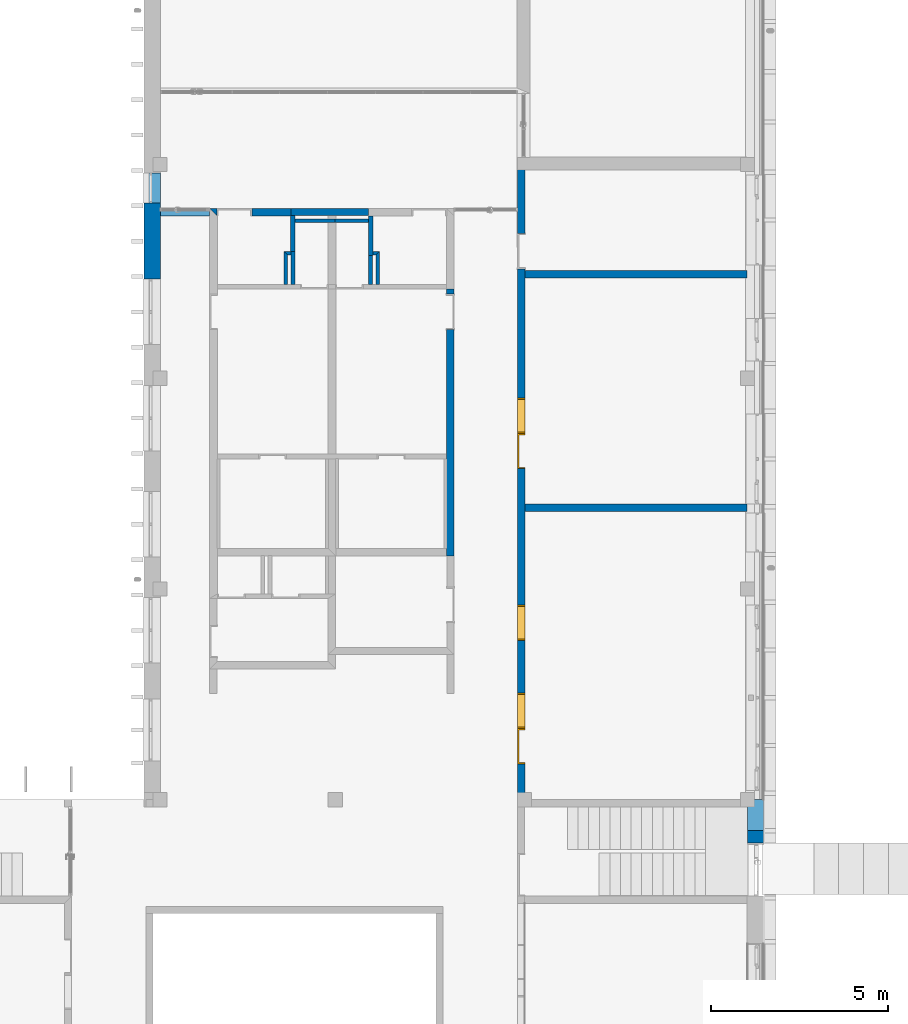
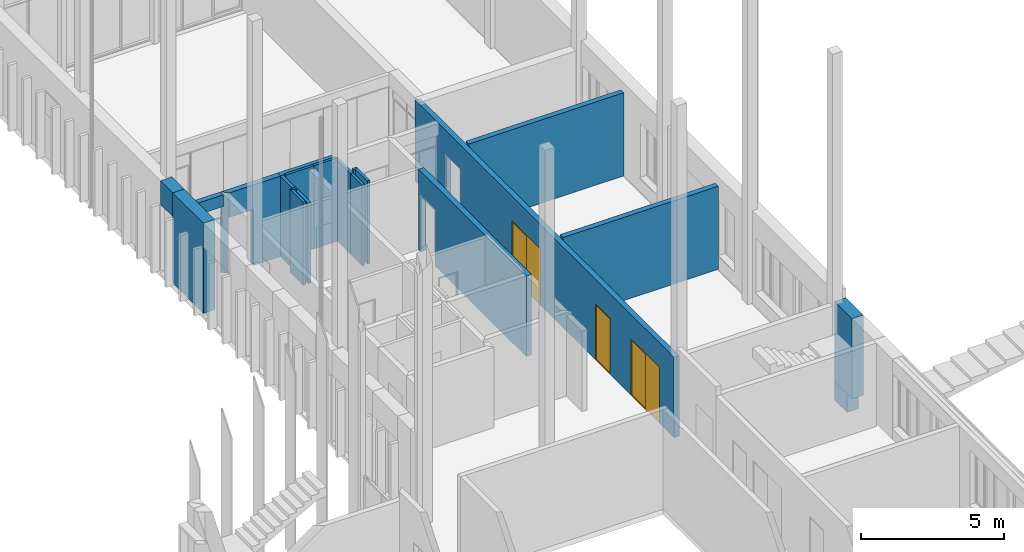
# One storey, part 16 of 89: 21 walls, 3 windows, 2 doors, 10 openings.
"""IFC2X3 building model written with IfcOpenShell, lengths in millimetres."""

from ifc_helpers import new_model, entity, si_unit, converted_unit, derived_unit, money_unit, direction, frame, origin_with_axes, origin_2d_with_axis, place, context, subcontext, project, spatial, polyline, rectangle, outline, extrude, open_shell, faceted_brep, surface_model, source, transform, mapped, material, layer, layer_set, layer_usage, type_object, element, fill, save


model = new_model("IFC2X3")

# Units and contexts
model_context = context("Model", 3, precision=0.01, world=origin_with_axes(), true_north=direction((0.0, 1.0)))
body_context = subcontext(model_context, "Body", "Model", "MODEL_VIEW")
ifc_project = project(units=[si_unit("LENGTHUNIT", "METRE", prefix="MILLI"), si_unit("AREAUNIT", "SQUARE_METRE"), si_unit("VOLUMEUNIT", "CUBIC_METRE"), converted_unit("PLANEANGLEUNIT", "DEGREE", entity("IfcPlaneAngleMeasure", 0.0174532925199), si_unit("PLANEANGLEUNIT", "RADIAN"), dimensions=[0, 0, 0, 0, 0, 0, 0]), si_unit("SOLIDANGLEUNIT", "STERADIAN"), money_unit("EUR"), converted_unit("TIMEUNIT", "Year", entity("IfcTimeMeasure", 31556926.0), si_unit("TIMEUNIT", "SECOND"), dimensions=[0, 0, 1, 0, 0, 0, 0]), si_unit("MASSUNIT", "GRAM", prefix="KILO"), si_unit("THERMODYNAMICTEMPERATUREUNIT", "DEGREE_CELSIUS"), si_unit("LUMINOUSINTENSITYUNIT", "LUMEN"), si_unit("ENERGYUNIT", "JOULE", prefix="MEGA"), derived_unit("THERMALCONDUCTANCEUNIT", [(si_unit("POWERUNIT", "WATT"), 1), (si_unit("LENGTHUNIT", "METRE"), -1), (si_unit("THERMODYNAMICTEMPERATUREUNIT", "KELVIN"), -1)]), derived_unit("SPECIFICHEATCAPACITYUNIT", [(si_unit("ENERGYUNIT", "JOULE"), 1), (si_unit("MASSUNIT", "GRAM", prefix="KILO"), -1), (si_unit("THERMODYNAMICTEMPERATUREUNIT", "KELVIN"), -1)]), derived_unit("MASSDENSITYUNIT", [(si_unit("MASSUNIT", "GRAM", prefix="KILO"), 1), (si_unit("VOLUMEUNIT", "CUBIC_METRE"), -1)])], contexts=[model_context])

# Site, building, storey
site_placement = place(None, origin_with_axes())
site = spatial("IfcSite", under=ifc_project, at=site_placement, Name="Puškini 31, Narva", CompositionType="ELEMENT")
building_placement = place(site_placement, origin_with_axes())
building = spatial("IfcBuilding", under=site, at=building_placement, Name="Narva Riigigümnaasium", CompositionType="ELEMENT")
storey_placement = place(building_placement, frame((0.0, 0.0, -3300.0), z_axis=(0.0, 0.0, 1.0), x_axis=(1.0, 0.0, 0.0)))
storey = spatial("IfcBuildingStorey", under=building, at=storey_placement, Name="1.korrus -3.3", CompositionType="ELEMENT", Elevation=-3300.0)

# Wall, opening
ifc_material_1 = material(Name="fassaadiplaat")
ifc_layer_1 = layer(ifc_material_1, 8.0, ventilated="UNKNOWN")
ifc_material_2 = material(Name="Salto-roovitus")
ifc_layer_2 = layer(ifc_material_2, 50.0, ventilated="UNKNOWN")
ifc_material_3 = material(Name="Salto-PIR soojustus")
ifc_layer_3 = layer(ifc_material_3, 50.0, ventilated="UNKNOWN")
ifc_layer_4 = layer(ifc_material_3, 150.0, ventilated="UNKNOWN")
ifc_material_4 = material(Name="Betoon element")
ifc_layer_5 = layer(ifc_material_4, 200.0, ventilated="UNKNOWN")
ifc_material_5 = material(Name="Salto-siseviimistlus-seinad")
ifc_layer_6 = layer(ifc_material_5, 10.0, ventilated="UNKNOWN")
ifc_layer_set_1 = layer_set([ifc_layer_1, ifc_layer_2, ifc_layer_3, ifc_layer_4, ifc_layer_5, ifc_layer_6], Name="G-VS-01")
ifc_layer_usage_1 = layer_usage(ifc_layer_set_1, "AXIS2", "POSITIVE", -458.0)
wall_type_1 = type_object("IfcWallType", Name="G-VS-01 468", PredefinedType="NOTDEFINED")
wall_1_placement = place(storey_placement, frame((37400.0000002, 241709.212578, 0.0), z_axis=(0.0, 0.0, 1.0), x_axis=(0.0, -1.0, 0.0)))
wall_1 = element("IfcWallStandardCase", 1, at=wall_1_placement, inside=storey, type_object=wall_type_1, material=ifc_layer_usage_1, Name="Välissein", context=body_context, shape_type="SweptSolid", body=[
    extrude(outline(polyline([(0.0, -458.0), (850.0, -458.0), (850.0, 10.0), (0.0, 10.0), (0.0, -458.0)])), origin_with_axes(), (0.0, 0.0, 1.0), 3959.99999955),
])
opening_1_placement = place(wall_1_placement, frame((425.0, 0.0, 0.0), z_axis=(0.0, 0.0, 1.0), x_axis=(1.0, 0.0, 0.0)))
element("IfcOpeningElement", 2, at=opening_1_placement, cuts=wall_1, Name="G-A-27", context=body_context, shape_type="SweptSolid", body=[
    extrude(rectangle(XDim=850.0, YDim=2940.0, at=origin_2d_with_axis()), frame((0.0, -308.0, 1470.0), z_axis=(0.0, 1.0, 0.0), x_axis=(-1.0, 0.0, 0.0)), (0.0, 0.0, 1.0), 786.0),
    extrude(rectangle(XDim=850.0, YDim=2940.0, at=origin_2d_with_axis()), frame((0.0, -308.0, 1470.0), z_axis=(0.0, -1.0, 0.0), x_axis=(-1.0, 0.0, 0.0)), (0.0, 0.0, 1.0), 618.0),
])

# Walls
wall_2_placement = place(storey_placement, frame((37400.0000002, 240859.212578, 100.0), z_axis=(0.0, 0.0, 1.0), x_axis=(0.0, -1.0, 0.0)))
element("IfcWallStandardCase", 3, at=wall_2_placement, inside=storey, type_object=wall_type_1, material=ifc_layer_usage_1, Name="Välissein", context=body_context, shape_type="SweptSolid", body=[
    extrude(outline(polyline([(0.0, -458.0), (2150.0, -458.0), (2150.0, 10.0), (0.0, 10.0), (0.0, -458.0)])), origin_with_axes(), (0.0, 0.0, 1.0), 3859.99999955),
])
ifc_layer_set_2 = layer_set([ifc_layer_1, ifc_layer_2, ifc_layer_3, ifc_layer_4, ifc_layer_5], Name="G-VS-01-01")
ifc_layer_usage_2 = layer_usage(ifc_layer_set_2, "AXIS2", "NEGATIVE", 458.0)
wall_type_2 = type_object("IfcWallType", Name="G-VS-01-01 458", PredefinedType="NOTDEFINED")
wall_3_placement = place(storey_placement, frame((54000.000001, 224010.0, 136.939766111), z_axis=(0.0, 0.0, 1.0), x_axis=(0.0, -1.0, 0.0)))
element("IfcWallStandardCase", 4, at=wall_3_placement, inside=storey, type_object=wall_type_2, material=ifc_layer_usage_2, Name="Välissein", context=body_context, shape_type="SweptSolid", body=[
    extrude(outline(polyline([(0.0, 0.0), (1229.76325175, 0.0), (1229.76325175, 458.0), (0.0, 458.0), (0.0, 0.0)])), origin_with_axes(), (0.0, 0.0, 1.0), 3428.06023389),
])
ifc_layer_usage_3 = layer_usage(ifc_layer_set_2, "AXIS2", "NEGATIVE", 258.0)
wall_4_placement = place(storey_placement, frame((54200.0000018, 224005.149008, -663.932366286), z_axis=(0.0, 0.0, 1.0), x_axis=(0.0, -1.0, 0.0)))
element("IfcWallStandardCase", 5, at=wall_4_placement, inside=storey, type_object=wall_type_2, material=ifc_layer_usage_3, Name="Sisesein", context=body_context, shape_type="SweptSolid", body=[
    extrude(outline(polyline([(0.0, -200.0), (874.912259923, -200.0), (874.912259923, 258.0), (0.0, 258.0), (0.0, -200.0)])), origin_with_axes(), (0.0, 0.0, 1.0), 800.872132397),
])
ifc_material_6 = material(Name="siseviimistlus-seinad")
ifc_layer_7 = layer(ifc_material_6, 15.0, ventilated="UNKNOWN")
ifc_material_7 = material(Name="Kipsplaat")
ifc_layer_8 = layer(ifc_material_7, 12.5, ventilated="UNKNOWN")
ifc_layer_9 = layer(ifc_material_7, 12.0, ventilated="UNKNOWN")
ifc_material_8 = material(Name="Karkass")
ifc_layer_10 = layer(ifc_material_8, 66.0, ventilated="UNKNOWN")
ifc_layer_set_3 = layer_set([ifc_layer_7, ifc_layer_8, ifc_layer_9, ifc_layer_10], Name="G-SS-06")
ifc_layer_usage_4 = layer_usage(ifc_layer_set_3, "AXIS2", "POSITIVE", -15.0)
wall_type_3 = type_object("IfcWallType", Name="G-SS-06 106", PredefinedType="NOTDEFINED")
wall_5_placement = place(storey_placement, frame((42345.0000002, 240325.500001, 0.0), z_axis=(0.0, 0.0, 1.0), x_axis=(1.0, 0.0, 0.0)))
element("IfcWallStandardCase", 6, at=wall_5_placement, inside=storey, type_object=wall_type_3, material=ifc_layer_usage_4, Name="Sisesein", context=body_context, shape_type="SweptSolid", body=[
    extrude(outline(polyline([(0.0, -15.0), (939.999999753, -15.0), (939.999999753, 90.5), (0.0, 90.5), (0.0, -15.0)])), origin_with_axes(), (0.0, 0.0, 1.0), 3560.0),
])
ifc_layer_usage_5 = layer_usage(ifc_layer_set_3, "AXIS2", "NEGATIVE", 15.0)
wall_6_placement = place(storey_placement, frame((43585.0000021, 239485.0, 0.0), z_axis=(0.0, 0.0, 1.0), x_axis=(0.0, -1.0, 0.0)))
element("IfcWallStandardCase", 7, at=wall_6_placement, inside=storey, type_object=wall_type_3, material=ifc_layer_usage_5, Name="Sisesein", context=body_context, shape_type="SweptSolid", body=[
    extrude(outline(polyline([(90.5, -90.5), (920.0, -90.5), (920.0, 15.0), (-15.0, 15.0), (90.5, -90.5)])), origin_with_axes(), (0.0, 0.0, 1.0), 3560.0),
])
wall_7_placement = place(storey_placement, frame((40915.0000002, 239485.0, 0.0), z_axis=(0.0, 0.0, 1.0), x_axis=(0.0, -1.0, 0.0)))
element("IfcWallStandardCase", 8, at=wall_7_placement, inside=storey, type_object=wall_type_3, material=ifc_layer_usage_4, Name="Sisesein", context=body_context, shape_type="SweptSolid", body=[
    extrude(outline(polyline([(-15.0, -15.0), (920.000000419, -15.0), (920.000000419, 90.5), (90.5, 90.5), (-15.0, -15.0)])), origin_with_axes(), (0.0, 0.0, 1.0), 3560.0),
])
wall_8_placement = place(storey_placement, frame((40915.0000002, 239485.0, 0.0), z_axis=(0.0, 0.0, 1.0), x_axis=(1.0, 0.0, 0.0)))
element("IfcWallStandardCase", 9, at=wall_8_placement, inside=storey, type_object=wall_type_3, material=ifc_layer_usage_5, Name="Sisesein", context=body_context, shape_type="SweptSolid", body=[
    extrude(outline(polyline([(90.5, -90.5), (184.99999977, -90.5), (184.99999977, 15.0), (-15.0, 15.0), (90.5, -90.5)])), origin_with_axes(), (0.0, 0.0, 1.0), 3560.0),
])
wall_9_placement = place(storey_placement, frame((41200.0, 240325.500001, 0.0), z_axis=(0.0, 0.0, 1.0), x_axis=(1.0, 0.0, 0.0)))
element("IfcWallStandardCase", 10, at=wall_9_placement, inside=storey, type_object=wall_type_3, material=ifc_layer_usage_4, Name="Sisesein", context=body_context, shape_type="SweptSolid", body=[
    extrude(outline(polyline([(15.0, -15.0), (1145.00000017, -15.0), (1145.00000017, 90.5), (15.0, 90.5), (15.0, -15.0)])), origin_with_axes(), (0.0, 0.0, 1.0), 3560.0),
])
wall_10_placement = place(storey_placement, frame((43585.0000021, 239485.0, 0.0), z_axis=(0.0, 0.0, 1.0), x_axis=(-1.0, 0.0, 0.0)))
element("IfcWallStandardCase", 11, at=wall_10_placement, inside=storey, type_object=wall_type_3, material=ifc_layer_usage_4, Name="Sisesein", context=body_context, shape_type="SweptSolid", body=[
    extrude(outline(polyline([(-15.0, -15.0), (170.000002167, -15.0), (170.000002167, 90.5), (90.5, 90.5), (-15.0, -15.0)])), origin_with_axes(), (0.0, 0.0, 1.0), 3560.0),
])

# Wall, openings, windows, doors
ifc_layer_11 = layer(ifc_material_6, 10.0, ventilated="UNKNOWN")
ifc_layer_set_4 = layer_set([ifc_layer_5, ifc_layer_11], Name="G-SS-01-02")
ifc_layer_usage_6 = layer_usage(ifc_layer_set_4, "AXIS2", "POSITIVE", 0.0)
wall_type_4 = type_object("IfcWallType", Name="G-SS-01-02 210", PredefinedType="NOTDEFINED")
wall_11_placement = place(storey_placement, frame((47500.0000001, 242160.000057, 0.0), z_axis=(0.0, 0.0, 1.0), x_axis=(0.0, -1.0, 0.0)))
wall_11 = element("IfcWallStandardCase", 12, at=wall_11_placement, inside=storey, type_object=wall_type_4, material=ifc_layer_usage_6, Name="Sisesein", context=body_context, shape_type="SweptSolid", body=[
    extrude(outline(polyline([(0.0, 0.0), (18160.0000567, 0.0), (18160.0000567, 210.0), (0.0, 210.0), (0.0, 0.0)])), origin_with_axes(), (0.0, 0.0, 1.0), 3445.0),
])
opening_2_placement = place(wall_11_placement, frame((15650.0000565, 0.0, 0.0), z_axis=(0.0, 0.0, 1.0), x_axis=(1.0, 0.0, 0.0)))
opening_2 = element("IfcOpeningElement", 13, at=opening_2_placement, cuts=wall_11, Name="G-SA-1", context=body_context, shape_type="SweptSolid", body=[
    extrude(rectangle(XDim=1000.0, YDim=2400.0, at=origin_2d_with_axis()), frame((0.0, 210.0, 1200.0), z_axis=(0.0, -1.0, 0.0), x_axis=(-1.0, 0.0, 0.0)), (0.0, 0.0, 1.0), 630.0),
])
opening_3_placement = place(wall_11_placement, frame((13154.7633082, 0.0, 0.0), z_axis=(0.0, 0.0, 1.0), x_axis=(1.0, 0.0, 0.0)))
opening_3 = element("IfcOpeningElement", 14, at=opening_3_placement, cuts=wall_11, Name="G-SA-1", context=body_context, shape_type="SweptSolid", body=[
    extrude(rectangle(XDim=1000.0, YDim=2400.0, at=origin_2d_with_axis()), frame((0.0, 210.0, 1200.0), z_axis=(0.0, -1.0, 0.0), x_axis=(-1.0, 0.0, 0.0)), (0.0, 0.0, 1.0), 630.0),
])
opening_4_placement = place(wall_11_placement, frame((7306.06697513, 0.0, 0.0), z_axis=(0.0, 0.0, 1.0), x_axis=(1.0, 0.0, 0.0)))
opening_4 = element("IfcOpeningElement", 15, at=opening_4_placement, cuts=wall_11, Name="G-SA-1", context=body_context, shape_type="SweptSolid", body=[
    extrude(rectangle(XDim=1000.0, YDim=2400.0, at=origin_2d_with_axis()), frame((0.0, 210.0, 1200.0), z_axis=(0.0, -1.0, 0.0), x_axis=(-1.0, 0.0, 0.0)), (0.0, 0.0, 1.0), 630.0),
])
opening_5_placement = place(wall_11_placement, frame((2654.76330894, 0.0, 0.0), z_axis=(0.0, 0.0, 1.0), x_axis=(1.0, 0.0, 0.0)))
element("IfcOpeningElement", 16, at=opening_5_placement, cuts=wall_11, Name="G-SU-052", context=body_context, shape_type="SweptSolid", body=[
    extrude(rectangle(XDim=1000.0, YDim=2400.0, at=origin_2d_with_axis()), frame((0.0, 210.0, 1200.0), z_axis=(0.0, -1.0, 0.0), x_axis=(1.0, 0.0, 0.0)), (0.0, 0.0, 1.0), 630.0),
    extrude(rectangle(XDim=1060.0, YDim=2430.0, at=origin_2d_with_axis()), frame((0.0, 210.0, 1215.0), z_axis=(0.0, -1.0, 0.0), x_axis=(1.0, 0.0, 0.0)), (0.0, 0.0, -1.0), 210.0),
    extrude(rectangle(XDim=1056.0, YDim=2428.0, at=origin_2d_with_axis()), frame((0.0, 0.0, 1214.0), z_axis=(0.0, 1.0, 0.0), x_axis=(1.0, 0.0, 0.0)), (0.0, 0.0, -1.0), 210.0),
])
opening_6_placement = place(wall_11_placement, frame((8306.06697513, 0.0, 0.0), z_axis=(0.0, 0.0, 1.0), x_axis=(1.0, 0.0, 0.0)))
opening_6 = element("IfcOpeningElement", 17, at=opening_6_placement, cuts=wall_11, Name="G-SU-053", context=body_context, shape_type="SweptSolid", body=[
    extrude(rectangle(XDim=1000.0, YDim=2400.0, at=origin_2d_with_axis()), frame((0.0, 210.0, 1200.0), z_axis=(0.0, 1.0, 0.0), x_axis=(1.0, 0.0, 0.0)), (0.0, 0.0, -1.0), 630.0),
])
opening_7_placement = place(wall_11_placement, frame((16650.0000565, 0.0, 0.0), z_axis=(0.0, 0.0, 1.0), x_axis=(1.0, 0.0, 0.0)))
opening_7 = element("IfcOpeningElement", 18, at=opening_7_placement, cuts=wall_11, Name="G-SU-054", context=body_context, shape_type="SweptSolid", body=[
    extrude(rectangle(XDim=1000.0, YDim=2400.0, at=origin_2d_with_axis()), frame((0.0, 210.0, 1200.0), z_axis=(0.0, 1.0, 0.0), x_axis=(1.0, 0.0, 0.0)), (0.0, 0.0, -1.0), 630.0),
])
window_style = type_object("IfcWindowStyle", Name="Window 23", ConstructionType="NOTDEFINED", OperationType="SINGLE_PANEL", ParameterTakesPrecedence=False, Sizeable=False)
shared_shape_1 = source(origin_with_axes(), body_context, "Body", "SurfaceModel", [
    faceted_brep([(-460.0, -210.0, 2360.0), (-460.0, 0.0, 2360.0), (-500.0, 0.0, 2360.0), (-500.0, -210.0, 2360.0), (-460.0, -210.0, 40.0), (-460.0, 0.0, 40.0), (-500.0, 0.0, 40.0), (-500.0, -210.0, 40.0)], [[[0, 1, 2, 3]], [[4, 5, 1, 0]], [[1, 5, 6, 2]], [[3, 2, 6, 7]], [[0, 3, 7, 4]], [[7, 6, 5, 4]]]),
    faceted_brep([(460.0, -210.0, 40.0), (460.0, 0.0, 40.0), (500.0, 0.0, 40.0), (500.0, -210.0, 40.0), (460.0, -210.0, 2360.0), (460.0, 0.0, 2360.0), (500.0, 0.0, 2360.0), (500.0, -210.0, 2360.0)], [[[0, 1, 2, 3]], [[4, 5, 1, 0]], [[1, 5, 6, 2]], [[3, 2, 6, 7]], [[0, 3, 7, 4]], [[7, 6, 5, 4]]]),
    faceted_brep([(-460.0, -210.0, 40.0), (-460.0, 0.0, 40.0), (-500.0, 0.0, 40.0), (-500.0, -210.0, 40.0), (460.0, -210.0, 40.0), (460.0, 0.0, 40.0), (500.0, 0.0, 40.0), (500.0, 0.0, 0.0), (-500.0, 0.0, 0.0), (-500.0, -210.0, 0.0), (500.0, -210.0, 0.0), (500.0, -210.0, 40.0)], [[[0, 1, 2, 3]], [[4, 5, 1, 0]], [[1, 5, 6, 7, 8, 2]], [[3, 2, 8, 9]], [[0, 3, 9, 10, 11, 4]], [[11, 6, 5, 4]], [[10, 7, 6, 11]], [[9, 8, 7, 10]]]),
    faceted_brep([(460.0, -210.0, 2360.0), (460.0, 0.0, 2360.0), (500.0, 0.0, 2360.0), (500.0, -210.0, 2360.0), (-460.0, -210.0, 2360.0), (-460.0, 0.0, 2360.0), (-500.0, 0.0, 2360.0), (-500.0, 0.0, 2400.0), (500.0, 0.0, 2400.0), (500.0, -210.0, 2400.0), (-500.0, -210.0, 2400.0), (-500.0, -210.0, 2360.0)], [[[0, 1, 2, 3]], [[4, 5, 1, 0]], [[1, 5, 6, 7, 8, 2]], [[3, 2, 8, 9]], [[0, 3, 9, 10, 11, 4]], [[11, 6, 5, 4]], [[10, 7, 6, 11]], [[9, 8, 7, 10]]]),
    surface_model("IfcShellBasedSurfaceModel", [(-460.0, -35.0, 40.0), (460.0, -35.0, 40.0), (460.0, -35.0, 2360.0), (-460.0, -35.0, 2360.0)], [open_shell([[[0, 1, 2, 3]]])]),
    surface_model("IfcShellBasedSurfaceModel", [(-460.0, -15.0, 40.0), (-460.0, -15.0, 2360.0), (460.0, -15.0, 2360.0), (460.0, -15.0, 40.0)], [open_shell([[[0, 1, 2, 3]]])]),
])
window_1_placement = place(opening_2_placement, frame((500.0, 0.0, 0.0), z_axis=(0.0, 0.0, 1.0), x_axis=(-1.0, 0.0, 0.0)))
window_1 = element("IfcWindow", 19, at=window_1_placement, inside=storey, type_object=window_style, Name="G-SA-1", ObjectType="WINDOW", OverallHeight=2400.0, OverallWidth=1000.0, context=body_context, shape_type="MappedRepresentation", body=[
    mapped(shared_shape_1, transform((500.0, 0.0, 0.0))),
])
fill(opening_2, window_1)
window_2_placement = place(opening_3_placement, frame((500.0, 0.0, 0.0), z_axis=(0.0, 0.0, 1.0), x_axis=(-1.0, 0.0, 0.0)))
window_2 = element("IfcWindow", 20, at=window_2_placement, inside=storey, type_object=window_style, Name="G-SA-1", ObjectType="WINDOW", OverallHeight=2400.0, OverallWidth=1000.0, context=body_context, shape_type="MappedRepresentation", body=[
    mapped(shared_shape_1, transform((500.0, 0.0, 0.0))),
])
fill(opening_3, window_2)
window_3_placement = place(opening_4_placement, frame((500.0, 0.0, 0.0), z_axis=(0.0, 0.0, 1.0), x_axis=(-1.0, 0.0, 0.0)))
window_3 = element("IfcWindow", 21, at=window_3_placement, inside=storey, type_object=window_style, Name="G-SA-1", ObjectType="WINDOW", OverallHeight=2400.0, OverallWidth=1000.0, context=body_context, shape_type="MappedRepresentation", body=[
    mapped(shared_shape_1, transform((500.0, 0.0, 0.0))),
])
fill(opening_4, window_3)
door_style = type_object("IfcDoorStyle", Name="Door 23", ConstructionType="NOTDEFINED", OperationType="SINGLE_SWING_LEFT", ParameterTakesPrecedence=False, Sizeable=False)
shared_shape_2 = source(origin_with_axes(), body_context, "Body", "Brep", [
    faceted_brep([(460.0, -40.0, 0.0), (460.0, -210.0, 0.0), (460.0, -210.0, 2360.0), (460.0, -40.0, 2360.0), (472.0, -40.0, 0.0), (472.0, 0.0, 0.0), (500.0, 0.0, 0.0), (500.0, -210.0, 0.0), (500.0, -210.0, 2360.0), (472.0, -40.0, 2360.0), (500.0, 0.0, 2360.0), (472.0, 0.0, 2360.0)], [[[0, 1, 2, 3]], [[4, 5, 6, 7, 1, 0]], [[1, 7, 8, 2]], [[9, 3, 2, 8, 10, 11]], [[9, 4, 0, 3]], [[11, 5, 4, 9]], [[11, 10, 6, 5]], [[6, 10, 8, 7]]]),
    faceted_brep([(-472.0, -40.0, 2360.0), (-472.0, 0.0, 2360.0), (-500.0, 0.0, 2360.0), (-500.0, -210.0, 2360.0), (-460.0, -210.0, 2360.0), (-460.0, -40.0, 2360.0), (-472.0, -40.0, 0.0), (-472.0, 0.0, 0.0), (-500.0, 0.0, 0.0), (-500.0, -210.0, 0.0), (-460.0, -210.0, 0.0), (-460.0, -40.0, 0.0)], [[[0, 1, 2, 3, 4, 5]], [[0, 6, 7, 1]], [[7, 8, 2, 1]], [[2, 8, 9, 3]], [[3, 9, 10, 4]], [[5, 4, 10, 11]], [[5, 11, 6, 0]], [[6, 11, 10, 9, 8, 7]]]),
    faceted_brep([(472.0, 0.0, 2372.0), (-472.0, 0.0, 2372.0), (-472.0, 0.0, 2360.0), (-500.0, 0.0, 2360.0), (-500.0, 0.0, 2400.0), (500.0, 0.0, 2400.0), (500.0, 0.0, 2360.0), (472.0, 0.0, 2360.0), (472.0, -40.0, 2372.0), (-472.0, -40.0, 2372.0), (-472.0, -40.0, 2360.0), (-460.0, -40.0, 2360.0), (-460.0, -210.0, 2360.0), (-500.0, -210.0, 2360.0), (-500.0, -210.0, 2400.0), (500.0, -210.0, 2400.0), (500.0, -210.0, 2360.0), (472.0, -40.0, 2360.0), (460.0, -210.0, 2360.0), (460.0, -40.0, 2360.0)], [[[0, 1, 2, 3, 4, 5, 6, 7]], [[0, 8, 9, 1]], [[1, 9, 10, 2]], [[10, 11, 12, 13, 3, 2]], [[4, 3, 13, 14]], [[5, 4, 14, 15]], [[6, 5, 15, 16]], [[17, 7, 6, 16, 18, 19]], [[7, 17, 8, 0]], [[10, 9, 8, 17, 19, 11]], [[19, 18, 12, 11]], [[12, 18, 16, 15, 14, 13]]]),
    faceted_brep([(-472.0, 0.0, 0.0), (472.0, 0.0, 0.0), (472.0, -40.0, 0.0), (-472.0, -40.0, 0.0), (-472.0, 0.0, 2372.0), (472.0, 0.0, 2372.0), (472.0, -40.0, 2372.0), (-472.0, -40.0, 2372.0)], [[[0, 1, 2, 3]], [[0, 4, 5, 1]], [[1, 5, 6, 2]], [[3, 2, 6, 7]], [[4, 0, 3, 7]], [[5, 4, 7, 6]]]),
])
door_1_placement = place(opening_6_placement, frame((500.0, 0.0, 0.0), z_axis=(0.0, 0.0, 1.0), x_axis=(-1.0, 0.0, 0.0)))
door_1 = element("IfcDoor", 22, at=door_1_placement, inside=storey, type_object=door_style, Name="G-SU-053", ObjectType="DOOR", OverallHeight=2400.0, OverallWidth=1000.0, context=body_context, shape_type="MappedRepresentation", body=[
    mapped(shared_shape_2, transform((500.0, 0.0, 0.0))),
])
fill(opening_6, door_1)
door_2_placement = place(opening_7_placement, frame((500.0, 0.0, 0.0), z_axis=(0.0, 0.0, 1.0), x_axis=(-1.0, 0.0, 0.0)))
door_2 = element("IfcDoor", 23, at=door_2_placement, inside=storey, type_object=door_style, Name="G-SU-054", ObjectType="DOOR", OverallHeight=2400.0, OverallWidth=1000.0, context=body_context, shape_type="MappedRepresentation", body=[
    mapped(shared_shape_2, transform((500.0, 0.0, 0.0))),
])
fill(opening_7, door_2)

# Walls
ifc_layer_usage_7 = layer_usage(ifc_layer_set_4, "AXIS2", "NEGATIVE", 0.0)
wall_12_placement = place(storey_placement, frame((53999.9999837, 238745.236748, 0.0), z_axis=(0.0, 0.0, 1.0), x_axis=(-1.0, 0.0, 0.0)))
element("IfcWallStandardCase", 24, at=wall_12_placement, inside=storey, type_object=wall_type_4, material=ifc_layer_usage_7, Name="Sisesein", context=body_context, shape_type="SweptSolid", body=[
    extrude(outline(polyline([(9.99998195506, -210.0), (6289.99998358, -210.0), (6289.99998358, 0.0), (9.99998195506, 0.0), (9.99998195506, -210.0)])), origin_with_axes(), (0.0, 0.0, 1.0), 3560.0),
])
wall_13_placement = place(storey_placement, frame((54000.0000016, 232143.933081, 0.0), z_axis=(0.0, 0.0, 1.0), x_axis=(-1.0, 0.0, 0.0)))
element("IfcWallStandardCase", 25, at=wall_13_placement, inside=storey, type_object=wall_type_4, material=ifc_layer_usage_7, Name="Sisesein", context=body_context, shape_type="SweptSolid", body=[
    extrude(outline(polyline([(9.99999988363, -210.0), (6290.00000151, -210.0), (6290.00000151, 0.0), (9.99999988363, 0.0), (9.99999988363, -210.0)])), origin_with_axes(), (0.0, 0.0, 1.0), 3560.0),
])
ifc_material_9 = material(Name="kergbetoonplokk")
ifc_layer_12 = layer(ifc_material_9, 100.0, ventilated="UNKNOWN")
ifc_layer_set_5 = layer_set([ifc_layer_7, ifc_layer_12, ifc_layer_7], Name="G-SS-05-03")
ifc_layer_usage_8 = layer_usage(ifc_layer_set_5, "AXIS2", "NEGATIVE", 15.0)
wall_type_5 = type_object("IfcWallType", Name="G-SS-05-03 130", PredefinedType="NOTDEFINED")
wall_14_placement = place(storey_placement, frame((43399.9999999, 240510.000001, 0.0), z_axis=(0.0, 0.0, 1.0), x_axis=(0.0, -1.0, 0.0)))
element("IfcWallStandardCase", 26, at=wall_14_placement, inside=storey, type_object=wall_type_5, material=ifc_layer_usage_8, Name="Sisesein", context=body_context, shape_type="SweptSolid", body=[
    extrude(outline(polyline([(15.0, -115.0), (1127.50000084, -115.0), (1127.50000084, 15.0), (15.0, 15.0), (15.0, -115.0)])), origin_with_axes(), (0.0, 0.0, 1.0), 3445.0),
])
wall_15_placement = place(storey_placement, frame((41200.0, 240510.000001, 0.0), z_axis=(0.0, 0.0, 1.0), x_axis=(0.0, -1.0, 0.0)))
element("IfcWallStandardCase", 27, at=wall_15_placement, inside=storey, type_object=wall_type_5, material=ifc_layer_usage_8, Name="Sisesein", context=body_context, shape_type="SweptSolid", body=[
    extrude(outline(polyline([(0.0, -115.0), (1010.00000042, -115.0), (1010.00000042, 15.0), (0.0, 15.0), (0.0, -115.0)])), origin_with_axes(), (0.0, 0.0, 1.0), 3445.0),
])

# Wall, opening
ifc_material_10 = material(Name="õõnes betoonplokk")
ifc_layer_13 = layer(ifc_material_10, 190.0, ventilated="UNKNOWN")
ifc_layer_set_6 = layer_set([ifc_layer_7, ifc_layer_13, ifc_layer_11], Name="G-SS-02-03")
ifc_layer_usage_9 = layer_usage(ifc_layer_set_6, "AXIS2", "NEGATIVE", 15.0)
wall_type_6 = type_object("IfcWallType", Name="G-SS-02-03 215", PredefinedType="NOTDEFINED")
wall_16_placement = place(storey_placement, frame((45509.99998, 230890.000001, 0.0), z_axis=(0.0, 0.0, 1.0), x_axis=(2.67321152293e-09, 1.0, 0.0)))
wall_16 = element("IfcWallStandardCase", 28, at=wall_16_placement, inside=storey, type_object=wall_type_6, material=ifc_layer_usage_9, Name="Sisesein", context=body_context, shape_type="SweptSolid", body=[
    extrude(outline(polyline([(0.0, -200.0), (7544.99995975, -200.0), (7544.99995946, 15.0), (0.0, 15.0), (0.0, -200.0)])), origin_with_axes(), (0.0, 0.0, 1.0), 3445.0),
])
opening_8_placement = place(wall_16_placement, frame((6895.21257775, 0.0, 0.0), z_axis=(0.0, 0.0, 1.0), x_axis=(1.0, 0.0, 0.0)))
element("IfcOpeningElement", 29, at=opening_8_placement, cuts=wall_16, Name="G-SU-047", context=body_context, shape_type="SweptSolid", body=[
    extrude(rectangle(XDim=1000.0, YDim=2400.0, at=origin_2d_with_axis()), frame((-1.1093845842e-06, 215.0, 1200.0), z_axis=(2.67321152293e-09, -1.0, 0.0), x_axis=(1.0, 2.67321146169e-09, 0.0)), (0.0, 0.0, 1.0), 645.0),
    extrude(rectangle(XDim=1060.0, YDim=2430.0, at=origin_2d_with_axis()), frame((-5.74743808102e-07, 15.0000184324, 1215.0), z_axis=(2.67321152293e-09, -1.0, 0.0), x_axis=(1.0, 2.67321146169e-09, 0.0)), (0.0, 0.0, -1.0), 215.0),
    extrude(rectangle(XDim=1056.0, YDim=2428.0, at=origin_2d_with_axis()), frame((0.0, -199.999981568, 1214.0), z_axis=(-2.67321152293e-09, 1.0, 0.0), x_axis=(1.0, 2.67321146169e-09, 0.0)), (0.0, 0.0, -1.0), 215.0),
])

ifc_layer_usage_10 = layer_usage(ifc_layer_set_6, "AXIS2", "POSITIVE", -15.0)
wall_17_placement = place(storey_placement, frame((39000.0000003, 240510.000001, 0.0), z_axis=(0.0, 0.0, 1.0), x_axis=(1.0, 0.0, 0.0)))
wall_17 = element("IfcWallStandardCase", 30, at=wall_17_placement, inside=storey, type_object=wall_type_6, material=ifc_layer_usage_10, Name="Sisesein", context=body_context, shape_type="SweptSolid", body=[
    extrude(outline(polyline([(15.0, -15.0), (2100.93401658, -15.0), (2100.93401658, 200.0), (-200.0, 200.0), (15.0, -15.0)])), origin_with_axes(), (0.0, 0.0, 1.0), 3445.0),
])
opening_9_placement = place(wall_17_placement, frame((500.0, 0.0, 0.0), z_axis=(0.0, 0.0, 1.0), x_axis=(1.0, 0.0, 0.0)))
element("IfcOpeningElement", 31, at=opening_9_placement, cuts=wall_17, Name="G-SU-039", context=body_context, shape_type="SweptSolid", body=[
    extrude(rectangle(XDim=1000.0, YDim=2400.0, at=origin_2d_with_axis()), frame((0.0, -215.0, 1200.0), z_axis=(0.0, -1.0, 0.0), x_axis=(-1.0, 0.0, 0.0)), (0.0, 0.0, -1.0), 645.0),
])

# Walls
ifc_layer_set_7 = layer_set([ifc_layer_13, ifc_layer_11], Name="G-SS-02-01")
ifc_layer_usage_11 = layer_usage(ifc_layer_set_7, "AXIS2", "POSITIVE", 0.0)
wall_type_7 = type_object("IfcWallType", Name="G-SS-02-01 200", PredefinedType="NOTDEFINED")
wall_18_placement = place(storey_placement, frame((41100.9340168, 240510.000001, 0.0), z_axis=(0.0, 0.0, 1.0), x_axis=(1.0, 0.0, 0.0)))
element("IfcWallStandardCase", 32, at=wall_18_placement, inside=storey, type_object=wall_type_7, material=ifc_layer_usage_11, Name="Sisesein", context=body_context, shape_type="SweptSolid", body=[
    extrude(outline(polyline([(0.0, 0.0), (2184.0659831, 0.0), (2184.0659831, 200.0), (0.0, 200.0), (0.0, 0.0)])), origin_with_axes(), (0.0, 0.0, 1.0), 3445.0),
])
ifc_layer_set_8 = layer_set([ifc_layer_7, ifc_layer_12], Name="G-SS-05-02")
ifc_layer_usage_12 = layer_usage(ifc_layer_set_8, "AXIS2", "NEGATIVE", 15.0)
wall_type_8 = type_object("IfcWallType", Name="G-SS-05-02 115", PredefinedType="NOTDEFINED")
wall_19_placement = place(storey_placement, frame((41200.0, 239500.0, 0.0), z_axis=(0.0, 0.0, 1.0), x_axis=(0.0, -1.0, 0.0)))
element("IfcWallStandardCase", 33, at=wall_19_placement, inside=storey, type_object=wall_type_8, material=ifc_layer_usage_12, Name="Sisesein", context=body_context, shape_type="SweptSolid", body=[
    extrude(outline(polyline([(0.0, -100.0), (935.000000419, -100.0), (935.000000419, 15.0), (0.0, 15.0), (0.0, -100.0)])), origin_with_axes(), (0.0, 0.0, 1.0), 3445.0),
])
ifc_layer_usage_13 = layer_usage(ifc_layer_set_8, "AXIS2", "POSITIVE", -15.0)
wall_20_placement = place(storey_placement, frame((43299.9999999, 239382.5, 0.0), z_axis=(0.0, 0.0, 1.0), x_axis=(0.0, -1.0, 0.0)))
element("IfcWallStandardCase", 34, at=wall_20_placement, inside=storey, type_object=wall_type_8, material=ifc_layer_usage_13, Name="Sisesein", context=body_context, shape_type="SweptSolid", body=[
    extrude(outline(polyline([(0.0, -15.0), (817.5, -15.0), (817.5, 100.0), (0.0, 100.0), (0.0, -15.0)])), origin_with_axes(), (0.0, 0.0, 1.0), 3445.0),
])

# Wall, opening
ifc_layer_set_9 = layer_set([ifc_layer_11, ifc_layer_13, ifc_layer_11], Name="G-SS-02")
ifc_layer_usage_14 = layer_usage(ifc_layer_set_9, "AXIS2", "NEGATIVE", 10.0)
wall_type_9 = type_object("IfcWallType", Name="G-SS-02 210", PredefinedType="NOTDEFINED")
wall_21_placement = place(storey_placement, frame((37400.0000002, 240700.000001, 0.0), z_axis=(0.0, 0.0, 1.0), x_axis=(1.0, 0.0, 0.0)))
wall_21 = element("IfcWallStandardCase", 35, at=wall_21_placement, inside=storey, type_object=wall_type_9, material=ifc_layer_usage_14, Name="Sisesein", context=body_context, shape_type="SweptSolid", body=[
    extrude(outline(polyline([(10.0, -200.0), (1400.00000008, -200.0), (1400.00000008, 10.0), (10.0, 10.0), (10.0, -200.0)])), origin_with_axes(), (0.0, 0.0, 1.0), 3445.0),
])
opening_10_placement = place(wall_21_placement, frame((705.000000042, 0.0, 0.0), z_axis=(0.0, 0.0, 1.0), x_axis=(1.0, 0.0, 0.0)))
element("IfcOpeningElement", 36, at=opening_10_placement, cuts=wall_21, Name="ava", context=body_context, shape_type="SweptSolid", body=[
    extrude(rectangle(XDim=1410.00000008, YDim=2950.0, at=origin_2d_with_axis()), frame((0.0, -60.0, 1475.0), z_axis=(0.0, 1.0, 0.0), x_axis=(1.0, 0.0, 0.0)), (0.0, 0.0, -1.0), 350.0),
    extrude(rectangle(XDim=1410.00000008, YDim=2950.0, at=origin_2d_with_axis()), frame((0.0, -60.0, 1475.0), z_axis=(0.0, -1.0, 0.0), x_axis=(1.0, 0.0, 0.0)), (0.0, 0.0, -1.0), 350.0),
])

save(model, "model.ifc")
